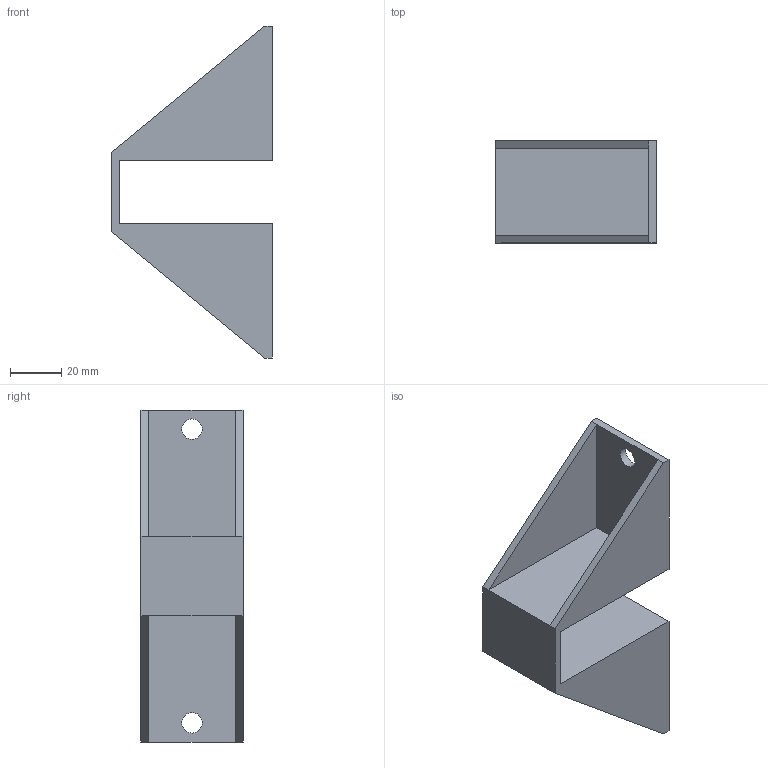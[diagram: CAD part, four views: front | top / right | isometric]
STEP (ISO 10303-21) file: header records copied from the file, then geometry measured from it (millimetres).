
FILE_DESCRIPTION(/* description */ (''),/* implementation_level */ '2;1');
FILE_NAME(/* name */ 'support3.stp',/* time_stamp */ '2026-05-05T20:11:38+02:00',/* author */ ('Jan Krueger'),/* organization */ (''),/* preprocessor_version */ 'ST-DEVELOPER v20.1',/* originating_system */ 'Autodesk Inventor 2026',/* authorisation */ '');
FILE_SCHEMA (('AUTOMOTIVE_DESIGN { 1 0 10303 214 3 1 1 }'));
Length unit declared in the file: millimetre
Products named in the file (1): clamp3
Bounding box: 63 x 40 x 130 mm (x, y, z)
Volume: 47518.4 mm3; surface area: 33189.1 mm2
Topology: 1 solids, 1 shells, 24 faces, 58 edges, 36 vertices
Faces by surface type: plane 22, cylinder 2
Full cylindrical faces by diameter (mm): 8 x2
Entity records: 733 total; most frequent: CARTESIAN_POINT 119, ORIENTED_EDGE 116, DIRECTION 112, EDGE_CURVE 58, LINE 54, VECTOR 54, VERTEX_POINT 36, AXIS2_PLACEMENT_3D 29
